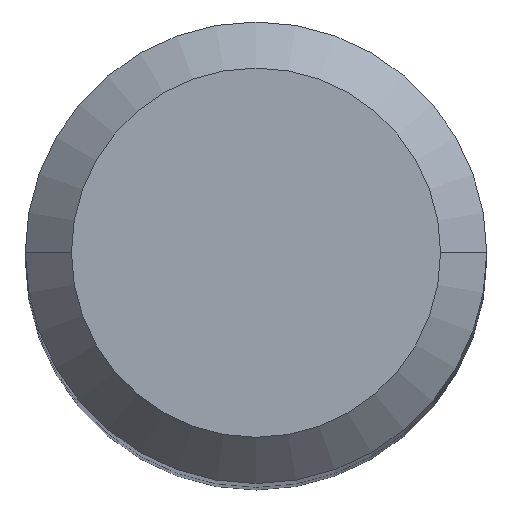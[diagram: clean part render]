
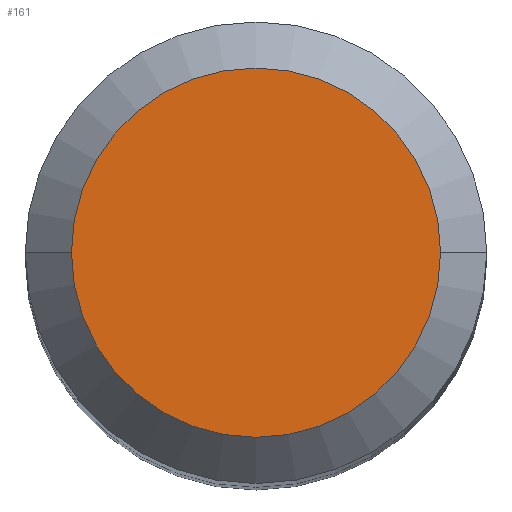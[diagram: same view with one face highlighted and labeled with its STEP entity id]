
A CAD part, top view. The second image highlights one B-rep face of the part: STEP entity #161.
In plain terms, the highlighted planar face has unit normal (0, 0, 1).
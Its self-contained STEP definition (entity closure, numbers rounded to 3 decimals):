
#25 = DIRECTION ( 'NONE',  ( 0., 0., -1. ) ) ;
#60 = AXIS2_PLACEMENT_3D ( 'NONE', #329, #25, #301 ) ;
#69 = VERTEX_POINT ( 'NONE', #372 ) ;
#98 = ORIENTED_EDGE ( 'NONE', *, *, #157, .F. ) ;
#112 = DIRECTION ( 'NONE',  ( -1., 0., 0. ) ) ;
#118 = EDGE_CURVE ( 'NONE', #69, #251, #135, .T. ) ;
#135 = CIRCLE ( 'NONE', #351, 6.4 ) ;
#157 = EDGE_CURVE ( 'NONE', #251, #69, #395, .T. ) ;
#161 = ADVANCED_FACE ( 'NONE', ( #217 ), #384, .T. ) ;
#165 = AXIS2_PLACEMENT_3D ( 'NONE', #356, #239, #244 ) ;
#217 = FACE_OUTER_BOUND ( 'NONE', #262, .T. ) ;
#239 = DIRECTION ( 'NONE',  ( 0., 0., 1. ) ) ;
#244 = DIRECTION ( 'NONE',  ( 1., 0., 0. ) ) ;
#251 = VERTEX_POINT ( 'NONE', #272 ) ;
#262 = EDGE_LOOP ( 'NONE', ( #98, #342 ) ) ;
#263 = CARTESIAN_POINT ( 'NONE',  ( 0., 0., 0. ) ) ;
#272 = CARTESIAN_POINT ( 'NONE',  ( -6.4, 0., 0. ) ) ;
#301 = DIRECTION ( 'NONE',  ( -1., 0., 0. ) ) ;
#329 = CARTESIAN_POINT ( 'NONE',  ( 0., 0., 0. ) ) ;
#342 = ORIENTED_EDGE ( 'NONE', *, *, #118, .F. ) ;
#347 = DIRECTION ( 'NONE',  ( 0., 0., -1. ) ) ;
#351 = AXIS2_PLACEMENT_3D ( 'NONE', #263, #347, #112 ) ;
#356 = CARTESIAN_POINT ( 'NONE',  ( 0., 6.4, 0. ) ) ;
#372 = CARTESIAN_POINT ( 'NONE',  ( 6.4, 0., 0. ) ) ;
#384 = PLANE ( 'NONE',  #165 ) ;
#395 = CIRCLE ( 'NONE', #60, 6.4 ) ;
